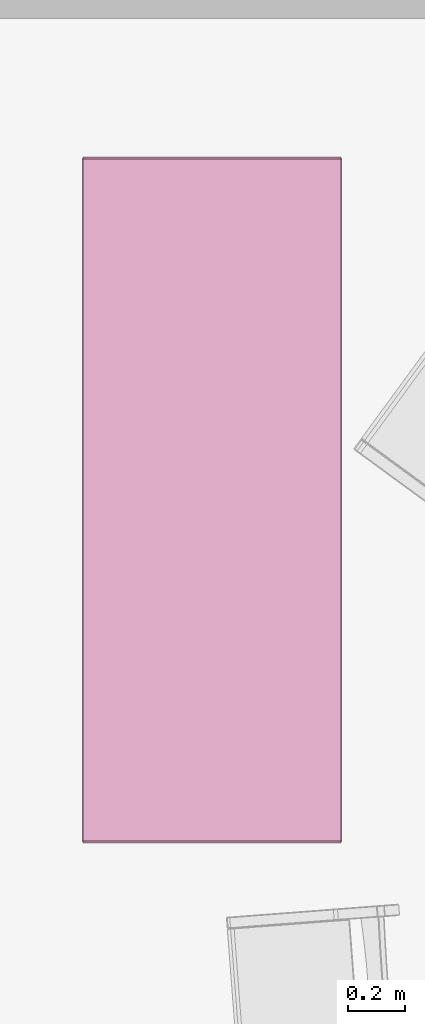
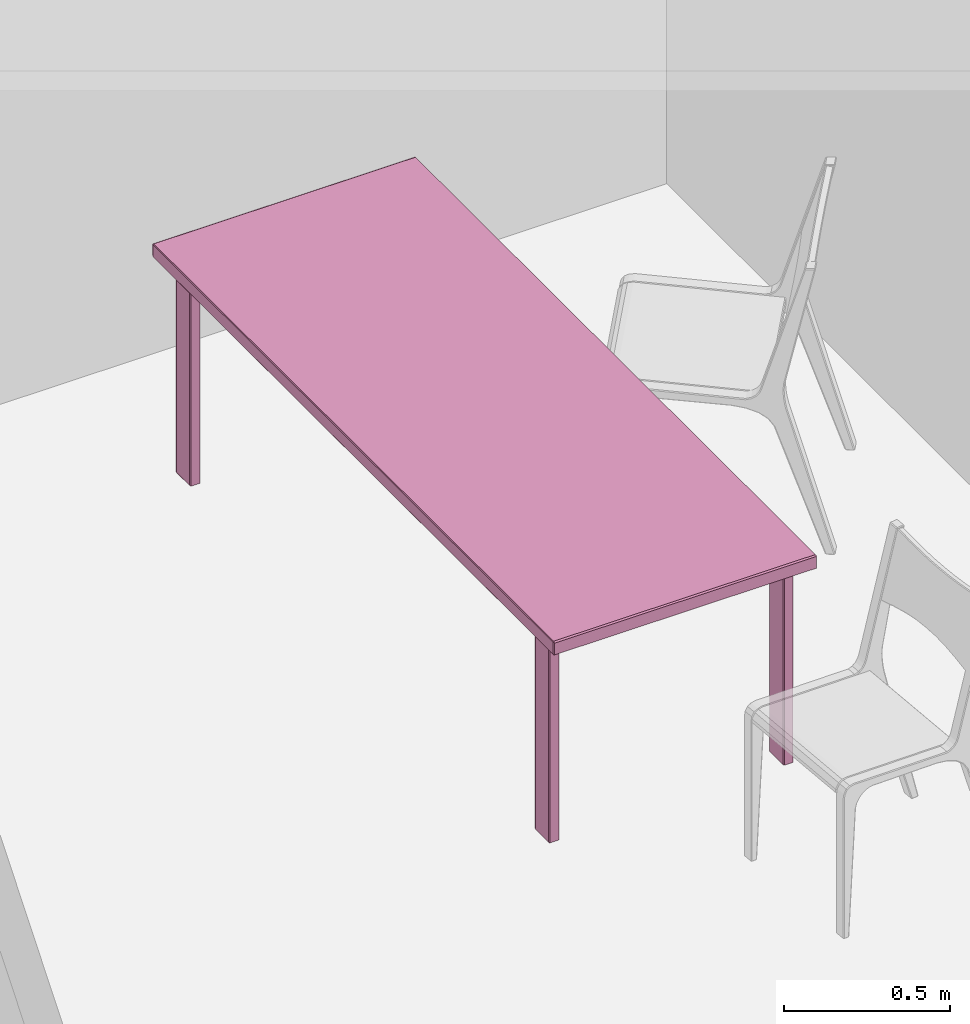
# One storey, part 13 of 26: 1 furniture element.
"""IFC4 building model written with IfcOpenShell, lengths in metres."""

from ifc_helpers import new_model, si_unit, direction, frame, origin_with_axes, place, context, project, spatial, polygons, type_object, element, save


model = new_model("IFC4")

# Units and contexts
model_context = context("Model", 3, precision=1e-05, world=origin_with_axes(), true_north=direction((0.996, -0.093, 0.0)))
ifc_project = project(units=[si_unit("LENGTHUNIT", "METRE"), si_unit("AREAUNIT", "SQUARE_METRE")], contexts=[model_context])

# Site, building, storey, space
site_placement = place(None, origin_with_axes())
site = spatial("IfcSite", under=ifc_project, at=site_placement, Name="Site", CompositionType="ELEMENT")
building_placement = place(site_placement, origin_with_axes())
building = spatial("IfcBuilding", under=site, at=building_placement, Name="Building", CompositionType="ELEMENT")
storey_placement = place(building_placement, frame((0.0, 0.0, 0.0500001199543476), z_axis=(0.0, 0.0, 1.0), x_axis=(1.0, 0.0, 0.0)))
storey = spatial("IfcBuildingStorey", under=building, at=storey_placement, Name="Story 0", CompositionType="ELEMENT", Elevation=0.0500000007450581)
space_placement = place(storey_placement, frame((2.01761728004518, 11.2697465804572, 0.0), z_axis=(0.0, 0.0, 1.0), x_axis=(1.0, 0.0, 0.0)))
space = spatial("IfcSpace", under=storey, at=space_placement, Name="016", CompositionType="ELEMENT")

# Furniture
furniture_type = type_object("IfcFurnitureType", Name="38f36656-9ffb-4854-b8fb-45a46fa24dbd", AssemblyPlace="NOTDEFINED", PredefinedType="USERDEFINED")
furniture_placement = place(space_placement, frame((-1.61164357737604, -1.69660262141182, 0.401017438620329), z_axis=(0.0, 0.0, 1.00000000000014), x_axis=(-0.999999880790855, 0.0, 0.0)))
element("IfcFurniture", 1, at=furniture_placement, inside=space, type_object=furniture_type, Name="Table", ObjectType="Table", PredefinedType="USERDEFINED", context=model_context, shape_type="Tessellation", body=[
    polygons([(0.4544, 1.2085, 0.3545), (-0.4544, 1.2085, 0.3545), (0.4544, 1.2085, 0.3975), (-0.4544, 1.2085, 0.3975), (0.4544, 1.2085, 0.3975), (-0.4544, 1.2085, 0.3545), (0.3896, -1.119, 0.3635), (0.3896, -1.0397, 0.3635), (0.3896, -1.119, -0.3975), (0.3896, -1.0397, -0.3975), (0.3896, -1.119, -0.3975), (0.3896, -1.0397, 0.3635), (0.4218, -1.125, 0.3635), (0.3918, -1.125, 0.3635), (0.4218, -1.125, -0.3975), (0.3918, -1.125, -0.3975), (0.4218, -1.125, -0.3975), (0.3918, -1.125, 0.3635), (0.4241, -1.0397, 0.3635), (0.4241, -1.119, 0.3635), (0.4241, -1.0397, -0.3975), (0.4241, -1.119, -0.3975), (0.4241, -1.0397, -0.3975), (0.4241, -1.119, 0.3635), (0.3918, -1.0337, 0.3635), (0.4218, -1.0337, 0.3635), (0.3918, -1.0337, -0.3975), (0.4218, -1.0337, -0.3975), (0.3918, -1.0337, -0.3975), (0.4218, -1.0337, 0.3635), (0.3896, 1.119, 0.3635), (0.3896, 1.119, -0.3975), (0.3896, 1.0397, 0.3635), (0.3896, 1.0397, -0.3975), (0.3896, 1.0397, 0.3635), (0.3896, 1.119, -0.3975), (0.4218, 1.125, 0.3635), (0.4218, 1.125, -0.3975), (0.3918, 1.125, 0.3635), (0.3918, 1.125, -0.3975), (0.3918, 1.125, 0.3635), (0.4218, 1.125, -0.3975), (0.4241, 1.0397, 0.3635), (0.4241, 1.0397, -0.3975), (0.4241, 1.119, 0.3635), (0.4241, 1.119, -0.3975), (0.4241, 1.119, 0.3635), (0.4241, 1.0397, -0.3975), (0.3918, 1.0337, 0.3635), (0.3918, 1.0337, -0.3975), (0.4218, 1.0337, 0.3635), (0.4218, 1.0337, -0.3975), (0.4218, 1.0337, 0.3635), (0.3918, 1.0337, -0.3975), (0.4567, 1.2025, 0.3545), (0.4567, 1.2025, 0.3975), (0.4567, -1.2025, 0.3545), (0.4567, -1.2025, 0.3975), (0.4567, -1.2025, 0.3545), (0.4567, 1.2025, 0.3975), (-0.4567, 1.2025, 0.3975), (-0.4567, 1.2025, 0.3545), (-0.4567, -1.2025, 0.3975), (-0.4567, -1.2025, 0.3545), (-0.4567, -1.2025, 0.3975), (-0.4567, 1.2025, 0.3545), (-0.3896, -1.119, 0.3635), (-0.3896, -1.119, -0.3975), (-0.3896, -1.0397, 0.3635), (-0.3896, -1.0397, -0.3975), (-0.3896, -1.0397, 0.3635), (-0.3896, -1.119, -0.3975), (-0.4218, -1.125, 0.3635), (-0.4218, -1.125, -0.3975), (-0.3918, -1.125, 0.3635), (-0.3918, -1.125, -0.3975), (-0.3918, -1.125, 0.3635), (-0.4218, -1.125, -0.3975), (-0.4241, -1.0397, 0.3635), (-0.4241, -1.0397, -0.3975), (-0.4241, -1.119, 0.3635), (-0.4241, -1.119, -0.3975), (-0.4241, -1.119, 0.3635), (-0.4241, -1.0397, -0.3975), (-0.3918, -1.0337, 0.3635), (-0.3918, -1.0337, -0.3975), (-0.4218, -1.0337, 0.3635), (-0.4218, -1.0337, -0.3975), (-0.4218, -1.0337, 0.3635), (-0.3918, -1.0337, -0.3975), (-0.3896, 1.119, 0.3635), (-0.3896, 1.0397, 0.3635), (-0.3896, 1.119, -0.3975), (-0.3896, 1.0397, -0.3975), (-0.3896, 1.119, -0.3975), (-0.3896, 1.0397, 0.3635), (-0.4218, 1.125, 0.3635), (-0.3918, 1.125, 0.3635), (-0.4218, 1.125, -0.3975), (-0.3918, 1.125, -0.3975), (-0.4218, 1.125, -0.3975), (-0.3918, 1.125, 0.3635), (-0.4241, 1.0397, 0.3635), (-0.4241, 1.119, 0.3635), (-0.4241, 1.0397, -0.3975), (-0.4241, 1.119, -0.3975), (-0.4241, 1.0397, -0.3975), (-0.4241, 1.119, 0.3635), (-0.3918, 1.0337, 0.3635), (-0.4218, 1.0337, 0.3635), (-0.3918, 1.0337, -0.3975), (-0.4218, 1.0337, -0.3975), (-0.3918, 1.0337, -0.3975), (-0.4218, 1.0337, 0.3635), (-0.4544, 1.2025, 0.401), (-0.4544, -1.2025, 0.401), (0.4544, 1.2025, 0.401), (0.4544, -1.2025, 0.401), (0.4544, 1.2025, 0.401), (-0.4544, -1.2025, 0.401), (0.4544, -1.2085, 0.3545), (0.4544, -1.2085, 0.3975), (-0.4544, -1.2085, 0.3545), (-0.4544, -1.2085, 0.3975), (-0.4544, -1.2085, 0.3545), (0.4544, -1.2085, 0.3975), (0.4544, -1.2025, 0.351), (-0.4544, -1.2025, 0.351), (0.4544, 1.2025, 0.351), (-0.4544, 1.2025, 0.351), (0.4544, 1.2025, 0.351), (-0.4544, -1.2025, 0.351), (0.4218, -1.119, 0.3671), (0.4218, -1.0397, 0.3671), (0.3918, -1.119, 0.3671), (0.3918, -1.0397, 0.3671), (0.3918, -1.119, 0.3671), (0.4218, -1.0397, 0.3671), (0.4218, -1.0397, -0.401), (0.4218, -1.119, -0.401), (0.3918, -1.0397, -0.401), (0.3918, -1.119, -0.401), (0.3918, -1.0397, -0.401), (0.4218, -1.119, -0.401), (0.4218, 1.119, -0.401), (0.4218, 1.0397, -0.401), (0.3918, 1.119, -0.401), (0.3918, 1.0397, -0.401), (0.3918, 1.119, -0.401), (0.4218, 1.0397, -0.401), (0.4218, 1.0397, 0.3671), (0.4218, 1.119, 0.3671), (0.3918, 1.0397, 0.3671), (0.3918, 1.119, 0.3671), (0.3918, 1.0397, 0.3671), (0.4218, 1.119, 0.3671), (-0.4218, -1.119, -0.401), (-0.4218, -1.0397, -0.401), (-0.3918, -1.119, -0.401), (-0.3918, -1.0397, -0.401), (-0.3918, -1.119, -0.401), (-0.4218, -1.0397, -0.401), (-0.4218, -1.0397, 0.3671), (-0.4218, -1.119, 0.3671), (-0.3918, -1.0397, 0.3671), (-0.3918, -1.119, 0.3671), (-0.3918, -1.0397, 0.3671), (-0.4218, -1.119, 0.3671), (-0.4218, 1.119, 0.3671), (-0.4218, 1.0397, 0.3671), (-0.3918, 1.119, 0.3671), (-0.3918, 1.0397, 0.3671), (-0.3918, 1.119, 0.3671), (-0.4218, 1.0397, 0.3671), (-0.4218, 1.0397, -0.401), (-0.4218, 1.119, -0.401), (-0.3918, 1.0397, -0.401), (-0.3918, 1.119, -0.401), (-0.3918, 1.0397, -0.401), (-0.4218, 1.119, -0.401), (-0.4544, 1.2025, 0.401), (-0.4544, 1.2085, 0.3975), (-0.4567, 1.2025, 0.3975), (0.3918, -1.0397, -0.401), (0.3896, -1.0397, -0.3975), (0.3918, -1.0337, -0.3975), (0.3918, -1.119, -0.401), (0.3918, -1.125, -0.3975), (0.3896, -1.119, -0.3975), (0.4218, -1.119, -0.401), (0.4241, -1.119, -0.3975), (0.4218, -1.125, -0.3975), (0.4218, -1.0397, -0.401), (0.4218, -1.0337, -0.3975), (0.4241, -1.0397, -0.3975), (0.3918, -1.0397, 0.3671), (0.3918, -1.0337, 0.3635), (0.3896, -1.0397, 0.3635), (0.3918, 1.0337, -0.3975), (0.3896, 1.0397, -0.3975), (0.3918, 1.0397, -0.401), (0.3918, 1.119, 0.3671), (0.3918, 1.125, 0.3635), (0.3896, 1.119, 0.3635), (0.4218, 1.119, 0.3671), (0.4241, 1.119, 0.3635), (0.4218, 1.125, 0.3635), (0.4218, 1.0397, 0.3671), (0.4218, 1.0337, 0.3635), (0.4241, 1.0397, 0.3635), (0.4544, -1.2085, 0.3975), (0.4567, -1.2025, 0.3975), (0.4544, -1.2025, 0.401), (0.4544, 1.2025, 0.401), (0.4567, 1.2025, 0.3975), (0.4544, 1.2085, 0.3975), (-0.4544, -1.2085, 0.3545), (-0.4567, -1.2025, 0.3545), (-0.4544, -1.2025, 0.351), (-0.4544, 1.2025, 0.351), (-0.4567, 1.2025, 0.3545), (-0.4544, 1.2085, 0.3545), (-0.3918, -1.0337, -0.3975), (-0.3896, -1.0397, -0.3975), (-0.3918, -1.0397, -0.401), (-0.3918, -1.119, 0.3671), (-0.3918, -1.125, 0.3635), (-0.3896, -1.119, 0.3635), (-0.4218, -1.119, 0.3671), (-0.4241, -1.119, 0.3635), (-0.4218, -1.125, 0.3635), (-0.4218, -1.0397, 0.3671), (-0.4218, -1.0337, 0.3635), (-0.4241, -1.0397, 0.3635), (-0.3918, 1.0397, -0.401), (-0.3896, 1.0397, -0.3975), (-0.3918, 1.0337, -0.3975), (-0.3918, 1.119, -0.401), (-0.3918, 1.125, -0.3975), (-0.3896, 1.119, -0.3975), (-0.4218, 1.119, -0.401), (-0.4241, 1.119, -0.3975), (-0.4218, 1.125, -0.3975), (-0.4218, 1.0397, -0.401), (-0.4218, 1.0337, -0.3975), (-0.4241, 1.0397, -0.3975), (-0.3918, 1.0397, 0.3671), (-0.3918, 1.0337, 0.3635), (-0.3896, 1.0397, 0.3635), (-0.4544, -1.2085, 0.3975), (-0.4544, -1.2025, 0.401), (-0.4567, -1.2025, 0.3975), (0.4544, -1.2085, 0.3545), (0.4544, -1.2025, 0.351), (0.4567, -1.2025, 0.3545), (0.4567, 1.2025, 0.3545), (0.4544, 1.2025, 0.351), (0.4544, 1.2085, 0.3545), (0.4218, -1.0337, 0.3635), (0.4218, -1.0397, 0.3671), (0.4241, -1.0397, 0.3635), (0.4241, -1.119, 0.3635), (0.4218, -1.119, 0.3671), (0.4218, -1.125, 0.3635), (0.3918, -1.125, 0.3635), (0.3918, -1.119, 0.3671), (0.3896, -1.119, 0.3635), (0.4218, 1.0337, -0.3975), (0.4218, 1.0397, -0.401), (0.4241, 1.0397, -0.3975), (0.4241, 1.119, -0.3975), (0.4218, 1.119, -0.401), (0.4218, 1.125, -0.3975), (0.3918, 1.125, -0.3975), (0.3918, 1.119, -0.401), (0.3896, 1.119, -0.3975), (0.3918, 1.0337, 0.3635), (0.3918, 1.0397, 0.3671), (0.3896, 1.0397, 0.3635), (-0.4218, -1.0337, -0.3975), (-0.4218, -1.0397, -0.401), (-0.4241, -1.0397, -0.3975), (-0.4241, -1.119, -0.3975), (-0.4218, -1.119, -0.401), (-0.4218, -1.125, -0.3975), (-0.3918, -1.125, -0.3975), (-0.3918, -1.119, -0.401), (-0.3896, -1.119, -0.3975), (-0.3918, -1.0337, 0.3635), (-0.3918, -1.0397, 0.3671), (-0.3896, -1.0397, 0.3635), (-0.4218, 1.0337, 0.3635), (-0.4218, 1.0397, 0.3671), (-0.4241, 1.0397, 0.3635), (-0.4241, 1.119, 0.3635), (-0.4218, 1.119, 0.3671), (-0.4218, 1.125, 0.3635), (-0.3918, 1.125, 0.3635), (-0.3918, 1.119, 0.3671), (-0.3896, 1.119, 0.3635), (-0.4544, 1.2085, 0.3975), (-0.4544, 1.2085, 0.3545), (-0.4567, 1.2025, 0.3975), (-0.4567, 1.2025, 0.3545), (-0.4567, 1.2025, 0.3975), (-0.4544, 1.2085, 0.3545), (-0.4544, 1.2085, 0.3545), (0.4544, 1.2085, 0.3545), (-0.4544, 1.2025, 0.351), (0.4544, 1.2025, 0.351), (-0.4544, 1.2025, 0.351), (0.4544, 1.2085, 0.3545), (0.4544, 1.2085, 0.3545), (0.4544, 1.2085, 0.3975), (0.4567, 1.2025, 0.3545), (0.4567, 1.2025, 0.3975), (0.4567, 1.2025, 0.3545), (0.4544, 1.2085, 0.3975), (0.4544, 1.2085, 0.3975), (-0.4544, 1.2085, 0.3975), (0.4544, 1.2025, 0.401), (-0.4544, 1.2025, 0.401), (0.4544, 1.2025, 0.401), (-0.4544, 1.2085, 0.3975), (0.3896, -1.0397, -0.3975), (0.3896, -1.0397, 0.3635), (0.3918, -1.0337, -0.3975), (0.3918, -1.0337, 0.3635), (0.3918, -1.0337, -0.3975), (0.3896, -1.0397, 0.3635), (0.3896, -1.0397, 0.3635), (0.3896, -1.119, 0.3635), (0.3918, -1.0397, 0.3671), (0.3918, -1.119, 0.3671), (0.3918, -1.0397, 0.3671), (0.3896, -1.119, 0.3635), (0.3896, -1.119, 0.3635), (0.3896, -1.119, -0.3975), (0.3918, -1.125, 0.3635), (0.3918, -1.125, -0.3975), (0.3918, -1.125, 0.3635), (0.3896, -1.119, -0.3975), (0.3896, -1.119, -0.3975), (0.3896, -1.0397, -0.3975), (0.3918, -1.119, -0.401), (0.3918, -1.0397, -0.401), (0.3918, -1.119, -0.401), (0.3896, -1.0397, -0.3975), (0.3918, -1.125, 0.3635), (0.4218, -1.125, 0.3635), (0.3918, -1.119, 0.3671), (0.4218, -1.119, 0.3671), (0.3918, -1.119, 0.3671), (0.4218, -1.125, 0.3635), (0.4218, -1.125, 0.3635), (0.4218, -1.125, -0.3975), (0.4241, -1.119, 0.3635), (0.4241, -1.119, -0.3975), (0.4241, -1.119, 0.3635), (0.4218, -1.125, -0.3975), (0.4218, -1.125, -0.3975), (0.3918, -1.125, -0.3975), (0.4218, -1.119, -0.401), (0.3918, -1.119, -0.401), (0.4218, -1.119, -0.401), (0.3918, -1.125, -0.3975), (0.4241, -1.119, 0.3635), (0.4241, -1.0397, 0.3635), (0.4218, -1.119, 0.3671), (0.4218, -1.0397, 0.3671), (0.4218, -1.119, 0.3671), (0.4241, -1.0397, 0.3635), (0.4241, -1.0397, 0.3635), (0.4241, -1.0397, -0.3975), (0.4218, -1.0337, 0.3635), (0.4218, -1.0337, -0.3975), (0.4218, -1.0337, 0.3635), (0.4241, -1.0397, -0.3975), (0.4241, -1.0397, -0.3975), (0.4241, -1.119, -0.3975), (0.4218, -1.0397, -0.401), (0.4218, -1.119, -0.401), (0.4218, -1.0397, -0.401), (0.4241, -1.119, -0.3975), (0.4218, -1.0337, 0.3635), (0.3918, -1.0337, 0.3635), (0.4218, -1.0397, 0.3671), (0.3918, -1.0397, 0.3671), (0.4218, -1.0397, 0.3671), (0.3918, -1.0337, 0.3635), (0.3918, -1.0337, -0.3975), (0.4218, -1.0337, -0.3975), (0.3918, -1.0397, -0.401), (0.4218, -1.0397, -0.401), (0.3918, -1.0397, -0.401), (0.4218, -1.0337, -0.3975), (0.3896, 1.0397, -0.3975), (0.3896, 1.119, -0.3975), (0.3918, 1.0397, -0.401), (0.3918, 1.119, -0.401), (0.3918, 1.0397, -0.401), (0.3896, 1.119, -0.3975), (0.3896, 1.119, -0.3975), (0.3896, 1.119, 0.3635), (0.3918, 1.125, -0.3975), (0.3918, 1.125, 0.3635), (0.3918, 1.125, -0.3975), (0.3896, 1.119, 0.3635), (0.3896, 1.119, 0.3635), (0.3896, 1.0397, 0.3635), (0.3918, 1.119, 0.3671), (0.3918, 1.0397, 0.3671), (0.3918, 1.119, 0.3671), (0.3896, 1.0397, 0.3635), (0.3896, 1.0397, 0.3635), (0.3896, 1.0397, -0.3975), (0.3918, 1.0337, 0.3635), (0.3918, 1.0337, -0.3975), (0.3918, 1.0337, 0.3635), (0.3896, 1.0397, -0.3975), (0.3918, 1.125, -0.3975), (0.4218, 1.125, -0.3975), (0.3918, 1.119, -0.401), (0.4218, 1.119, -0.401), (0.3918, 1.119, -0.401), (0.4218, 1.125, -0.3975), (0.4218, 1.125, -0.3975), (0.4218, 1.125, 0.3635), (0.4241, 1.119, -0.3975), (0.4241, 1.119, 0.3635), (0.4241, 1.119, -0.3975), (0.4218, 1.125, 0.3635), (0.4218, 1.125, 0.3635), (0.3918, 1.125, 0.3635), (0.4218, 1.119, 0.3671), (0.3918, 1.119, 0.3671), (0.4218, 1.119, 0.3671), (0.3918, 1.125, 0.3635), (0.4241, 1.119, -0.3975), (0.4241, 1.0397, -0.3975), (0.4218, 1.119, -0.401), (0.4218, 1.0397, -0.401), (0.4218, 1.119, -0.401), (0.4241, 1.0397, -0.3975), (0.4241, 1.0397, -0.3975), (0.4241, 1.0397, 0.3635), (0.4218, 1.0337, -0.3975), (0.4218, 1.0337, 0.3635), (0.4218, 1.0337, -0.3975), (0.4241, 1.0397, 0.3635), (0.4241, 1.0397, 0.3635), (0.4241, 1.119, 0.3635), (0.4218, 1.0397, 0.3671), (0.4218, 1.119, 0.3671), (0.4218, 1.0397, 0.3671), (0.4241, 1.119, 0.3635), (0.4218, 1.0337, -0.3975), (0.3918, 1.0337, -0.3975), (0.4218, 1.0397, -0.401), (0.3918, 1.0397, -0.401), (0.4218, 1.0397, -0.401), (0.3918, 1.0337, -0.3975), (0.3918, 1.0337, 0.3635), (0.4218, 1.0337, 0.3635), (0.3918, 1.0397, 0.3671), (0.4218, 1.0397, 0.3671), (0.3918, 1.0397, 0.3671), (0.4218, 1.0337, 0.3635), (0.4567, -1.2025, 0.3975), (0.4567, 1.2025, 0.3975), (0.4544, -1.2025, 0.401), (0.4544, 1.2025, 0.401), (0.4544, -1.2025, 0.401), (0.4567, 1.2025, 0.3975), (0.4567, 1.2025, 0.3545), (0.4567, -1.2025, 0.3545), (0.4544, 1.2025, 0.351), (0.4544, -1.2025, 0.351), (0.4544, 1.2025, 0.351), (0.4567, -1.2025, 0.3545), (0.4567, -1.2025, 0.3545), (0.4567, -1.2025, 0.3975), (0.4544, -1.2085, 0.3545), (0.4544, -1.2085, 0.3975), (0.4544, -1.2085, 0.3545), (0.4567, -1.2025, 0.3975), (-0.4567, -1.2025, 0.3545), (-0.4567, 1.2025, 0.3545), (-0.4544, -1.2025, 0.351), (-0.4544, 1.2025, 0.351), (-0.4544, -1.2025, 0.351), (-0.4567, 1.2025, 0.3545), (-0.4567, 1.2025, 0.3975), (-0.4567, -1.2025, 0.3975), (-0.4544, 1.2025, 0.401), (-0.4544, -1.2025, 0.401), (-0.4544, 1.2025, 0.401), (-0.4567, -1.2025, 0.3975), (-0.4567, -1.2025, 0.3975), (-0.4567, -1.2025, 0.3545), (-0.4544, -1.2085, 0.3975), (-0.4544, -1.2085, 0.3545), (-0.4544, -1.2085, 0.3975), (-0.4567, -1.2025, 0.3545), (-0.3896, -1.0397, -0.3975), (-0.3896, -1.119, -0.3975), (-0.3918, -1.0397, -0.401), (-0.3918, -1.119, -0.401), (-0.3918, -1.0397, -0.401), (-0.3896, -1.119, -0.3975), (-0.3896, -1.119, -0.3975), (-0.3896, -1.119, 0.3635), (-0.3918, -1.125, -0.3975), (-0.3918, -1.125, 0.3635), (-0.3918, -1.125, -0.3975), (-0.3896, -1.119, 0.3635), (-0.3896, -1.119, 0.3635), (-0.3896, -1.0397, 0.3635), (-0.3918, -1.119, 0.3671), (-0.3918, -1.0397, 0.3671), (-0.3918, -1.119, 0.3671), (-0.3896, -1.0397, 0.3635), (-0.3896, -1.0397, 0.3635), (-0.3896, -1.0397, -0.3975), (-0.3918, -1.0337, 0.3635), (-0.3918, -1.0337, -0.3975), (-0.3918, -1.0337, 0.3635), (-0.3896, -1.0397, -0.3975), (-0.3918, -1.125, -0.3975), (-0.4218, -1.125, -0.3975), (-0.3918, -1.119, -0.401), (-0.4218, -1.119, -0.401), (-0.3918, -1.119, -0.401), (-0.4218, -1.125, -0.3975), (-0.4218, -1.125, -0.3975), (-0.4218, -1.125, 0.3635), (-0.4241, -1.119, -0.3975), (-0.4241, -1.119, 0.3635), (-0.4241, -1.119, -0.3975), (-0.4218, -1.125, 0.3635), (-0.4218, -1.125, 0.3635), (-0.3918, -1.125, 0.3635), (-0.4218, -1.119, 0.3671), (-0.3918, -1.119, 0.3671), (-0.4218, -1.119, 0.3671), (-0.3918, -1.125, 0.3635), (-0.4241, -1.119, -0.3975), (-0.4241, -1.0397, -0.3975), (-0.4218, -1.119, -0.401), (-0.4218, -1.0397, -0.401), (-0.4218, -1.119, -0.401), (-0.4241, -1.0397, -0.3975), (-0.4241, -1.0397, -0.3975), (-0.4241, -1.0397, 0.3635), (-0.4218, -1.0337, -0.3975), (-0.4218, -1.0337, 0.3635), (-0.4218, -1.0337, -0.3975), (-0.4241, -1.0397, 0.3635), (-0.4241, -1.0397, 0.3635), (-0.4241, -1.119, 0.3635), (-0.4218, -1.0397, 0.3671), (-0.4218, -1.119, 0.3671), (-0.4218, -1.0397, 0.3671), (-0.4241, -1.119, 0.3635), (-0.4218, -1.0337, -0.3975), (-0.3918, -1.0337, -0.3975), (-0.4218, -1.0397, -0.401), (-0.3918, -1.0397, -0.401), (-0.4218, -1.0397, -0.401), (-0.3918, -1.0337, -0.3975), (-0.3918, -1.0337, 0.3635), (-0.4218, -1.0337, 0.3635), (-0.3918, -1.0397, 0.3671), (-0.4218, -1.0397, 0.3671), (-0.3918, -1.0397, 0.3671), (-0.4218, -1.0337, 0.3635), (-0.3896, 1.0397, -0.3975), (-0.3896, 1.0397, 0.3635), (-0.3918, 1.0337, -0.3975), (-0.3918, 1.0337, 0.3635), (-0.3918, 1.0337, -0.3975), (-0.3896, 1.0397, 0.3635), (-0.3896, 1.0397, 0.3635), (-0.3896, 1.119, 0.3635), (-0.3918, 1.0397, 0.3671), (-0.3918, 1.119, 0.3671), (-0.3918, 1.0397, 0.3671), (-0.3896, 1.119, 0.3635), (-0.3896, 1.119, 0.3635), (-0.3896, 1.119, -0.3975), (-0.3918, 1.125, 0.3635), (-0.3918, 1.125, -0.3975), (-0.3918, 1.125, 0.3635), (-0.3896, 1.119, -0.3975), (-0.3896, 1.119, -0.3975), (-0.3896, 1.0397, -0.3975), (-0.3918, 1.119, -0.401), (-0.3918, 1.0397, -0.401), (-0.3918, 1.119, -0.401), (-0.3896, 1.0397, -0.3975), (-0.3918, 1.125, 0.3635), (-0.4218, 1.125, 0.3635), (-0.3918, 1.119, 0.3671), (-0.4218, 1.119, 0.3671), (-0.3918, 1.119, 0.3671), (-0.4218, 1.125, 0.3635), (-0.4218, 1.125, 0.3635), (-0.4218, 1.125, -0.3975), (-0.4241, 1.119, 0.3635), (-0.4241, 1.119, -0.3975), (-0.4241, 1.119, 0.3635), (-0.4218, 1.125, -0.3975), (-0.4218, 1.125, -0.3975), (-0.3918, 1.125, -0.3975), (-0.4218, 1.119, -0.401), (-0.3918, 1.119, -0.401), (-0.4218, 1.119, -0.401), (-0.3918, 1.125, -0.3975), (-0.4241, 1.119, 0.3635), (-0.4241, 1.0397, 0.3635), (-0.4218, 1.119, 0.3671), (-0.4218, 1.0397, 0.3671), (-0.4218, 1.119, 0.3671), (-0.4241, 1.0397, 0.3635), (-0.4241, 1.0397, 0.3635), (-0.4241, 1.0397, -0.3975), (-0.4218, 1.0337, 0.3635), (-0.4218, 1.0337, -0.3975), (-0.4218, 1.0337, 0.3635), (-0.4241, 1.0397, -0.3975), (-0.4241, 1.0397, -0.3975), (-0.4241, 1.119, -0.3975), (-0.4218, 1.0397, -0.401), (-0.4218, 1.119, -0.401), (-0.4218, 1.0397, -0.401), (-0.4241, 1.119, -0.3975), (-0.4218, 1.0337, 0.3635), (-0.3918, 1.0337, 0.3635), (-0.4218, 1.0397, 0.3671), (-0.3918, 1.0397, 0.3671), (-0.4218, 1.0397, 0.3671), (-0.3918, 1.0337, 0.3635), (-0.3918, 1.0337, -0.3975), (-0.4218, 1.0337, -0.3975), (-0.3918, 1.0397, -0.401), (-0.4218, 1.0397, -0.401), (-0.3918, 1.0397, -0.401), (-0.4218, 1.0337, -0.3975), (0.4544, -1.2025, 0.401), (-0.4544, -1.2025, 0.401), (0.4544, -1.2085, 0.3975), (-0.4544, -1.2085, 0.3975), (0.4544, -1.2085, 0.3975), (-0.4544, -1.2025, 0.401), (0.4544, -1.2085, 0.3545), (-0.4544, -1.2085, 0.3545), (0.4544, -1.2025, 0.351), (-0.4544, -1.2025, 0.351), (0.4544, -1.2025, 0.351), (-0.4544, -1.2085, 0.3545)], [[[1, 2, 3]], [[4, 5, 6]], [[7, 8, 9]], [[10, 11, 12]], [[13, 14, 15]], [[16, 17, 18]], [[19, 20, 21]], [[22, 23, 24]], [[25, 26, 27]], [[28, 29, 30]], [[31, 32, 33]], [[34, 35, 36]], [[37, 38, 39]], [[40, 41, 42]], [[43, 44, 45]], [[46, 47, 48]], [[49, 50, 51]], [[52, 53, 54]], [[55, 56, 57]], [[58, 59, 60]], [[61, 62, 63]], [[64, 65, 66]], [[67, 68, 69]], [[70, 71, 72]], [[73, 74, 75]], [[76, 77, 78]], [[79, 80, 81]], [[82, 83, 84]], [[85, 86, 87]], [[88, 89, 90]], [[91, 92, 93]], [[94, 95, 96]], [[97, 98, 99]], [[100, 101, 102]], [[103, 104, 105]], [[106, 107, 108]], [[109, 110, 111]], [[112, 113, 114]], [[115, 116, 117]], [[118, 119, 120]], [[121, 122, 123]], [[124, 125, 126]], [[127, 128, 129]], [[130, 131, 132]], [[133, 134, 135]], [[136, 137, 138]], [[139, 140, 141]], [[142, 143, 144]], [[145, 146, 147]], [[148, 149, 150]], [[151, 152, 153]], [[154, 155, 156]], [[157, 158, 159]], [[160, 161, 162]], [[163, 164, 165]], [[166, 167, 168]], [[169, 170, 171]], [[172, 173, 174]], [[175, 176, 177]], [[178, 179, 180]], [[181, 182, 183]], [[184, 185, 186]], [[187, 188, 189]], [[190, 191, 192]], [[193, 194, 195]], [[196, 197, 198]], [[199, 200, 201]], [[202, 203, 204]], [[205, 206, 207]], [[208, 209, 210]], [[211, 212, 213]], [[214, 215, 216]], [[217, 218, 219]], [[220, 221, 222]], [[223, 224, 225]], [[226, 227, 228]], [[229, 230, 231]], [[232, 233, 234]], [[235, 236, 237]], [[238, 239, 240]], [[241, 242, 243]], [[244, 245, 246]], [[247, 248, 249]], [[250, 251, 252]], [[253, 254, 255]], [[256, 257, 258]], [[259, 260, 261]], [[262, 263, 264]], [[265, 266, 267]], [[268, 269, 270]], [[271, 272, 273]], [[274, 275, 276]], [[277, 278, 279]], [[280, 281, 282]], [[283, 284, 285]], [[286, 287, 288]], [[289, 290, 291]], [[292, 293, 294]], [[295, 296, 297]], [[298, 299, 300]], [[301, 302, 303]], [[304, 305, 306]], [[307, 308, 309]], [[310, 311, 312]], [[313, 314, 315]], [[316, 317, 318]], [[319, 320, 321]], [[322, 323, 324]], [[325, 326, 327]], [[328, 329, 330]], [[331, 332, 333]], [[334, 335, 336]], [[337, 338, 339]], [[340, 341, 342]], [[343, 344, 345]], [[346, 347, 348]], [[349, 350, 351]], [[352, 353, 354]], [[355, 356, 357]], [[358, 359, 360]], [[361, 362, 363]], [[364, 365, 366]], [[367, 368, 369]], [[370, 371, 372]], [[373, 374, 375]], [[376, 377, 378]], [[379, 380, 381]], [[382, 383, 384]], [[385, 386, 387]], [[388, 389, 390]], [[391, 392, 393]], [[394, 395, 396]], [[397, 398, 399]], [[400, 401, 402]], [[403, 404, 405]], [[406, 407, 408]], [[409, 410, 411]], [[412, 413, 414]], [[415, 416, 417]], [[418, 419, 420]], [[421, 422, 423]], [[424, 425, 426]], [[427, 428, 429]], [[430, 431, 432]], [[433, 434, 435]], [[436, 437, 438]], [[439, 440, 441]], [[442, 443, 444]], [[445, 446, 447]], [[448, 449, 450]], [[451, 452, 453]], [[454, 455, 456]], [[457, 458, 459]], [[460, 461, 462]], [[463, 464, 465]], [[466, 467, 468]], [[469, 470, 471]], [[472, 473, 474]], [[475, 476, 477]], [[478, 479, 480]], [[481, 482, 483]], [[484, 485, 486]], [[487, 488, 489]], [[490, 491, 492]], [[493, 494, 495]], [[496, 497, 498]], [[499, 500, 501]], [[502, 503, 504]], [[505, 506, 507]], [[508, 509, 510]], [[511, 512, 513]], [[514, 515, 516]], [[517, 518, 519]], [[520, 521, 522]], [[523, 524, 525]], [[526, 527, 528]], [[529, 530, 531]], [[532, 533, 534]], [[535, 536, 537]], [[538, 539, 540]], [[541, 542, 543]], [[544, 545, 546]], [[547, 548, 549]], [[550, 551, 552]], [[553, 554, 555]], [[556, 557, 558]], [[559, 560, 561]], [[562, 563, 564]], [[565, 566, 567]], [[568, 569, 570]], [[571, 572, 573]], [[574, 575, 576]], [[577, 578, 579]], [[580, 581, 582]], [[583, 584, 585]], [[586, 587, 588]], [[589, 590, 591]], [[592, 593, 594]], [[595, 596, 597]], [[598, 599, 600]], [[601, 602, 603]], [[604, 605, 606]], [[607, 608, 609]], [[610, 611, 612]], [[613, 614, 615]], [[616, 617, 618]], [[619, 620, 621]], [[622, 623, 624]], [[625, 626, 627]], [[628, 629, 630]], [[631, 632, 633]], [[634, 635, 636]], [[637, 638, 639]], [[640, 641, 642]], [[643, 644, 645]], [[646, 647, 648]], [[649, 650, 651]], [[652, 653, 654]], [[655, 656, 657]], [[658, 659, 660]]]),
])

save(model, "model.ifc")
